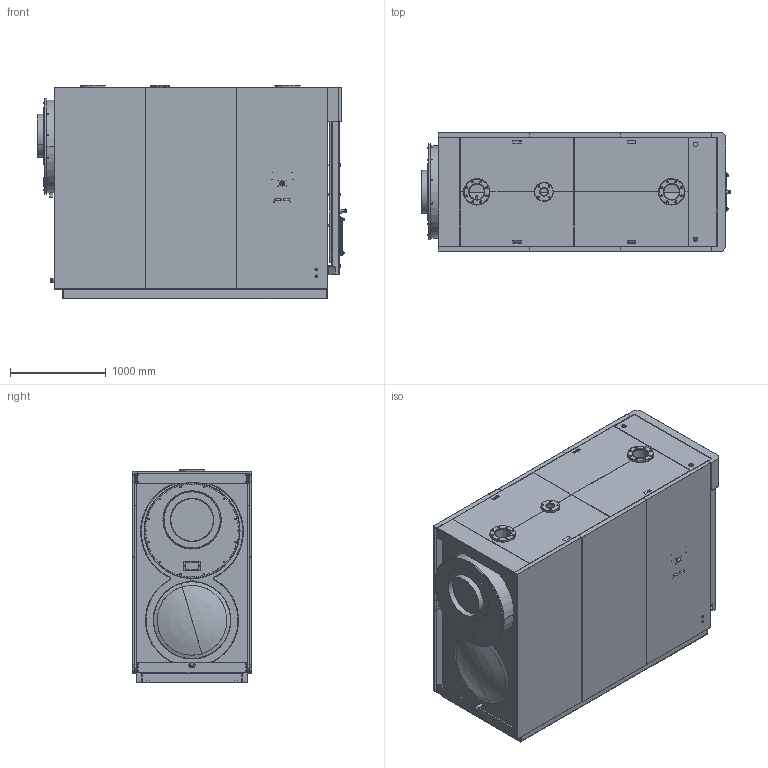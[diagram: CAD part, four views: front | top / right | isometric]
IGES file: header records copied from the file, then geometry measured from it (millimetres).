
Start section: START RECORD GO HERE.
Global section: file name: RTS1850 2S.igs; native system: DASSAULT SYSTEMES CATIA V5 R20 - www.3ds.com; preprocessor: CATIA Version 5 Release 20 SP 6 ; author: Riello S.p.A.; organization: RIELLO-IT; date: 20131031.092137; units: millimetre
Bounding box: 3223.89 x 1237 x 2222 mm (x, y, z)
Surface area: 96995446.4 mm2 (no closed solid volume)
Topology: 0 solids, 0 shells, 4896 faces, 23391 edges, 23325 vertices
Faces by surface type: plane 2617, revolution 1913, bspline 366
